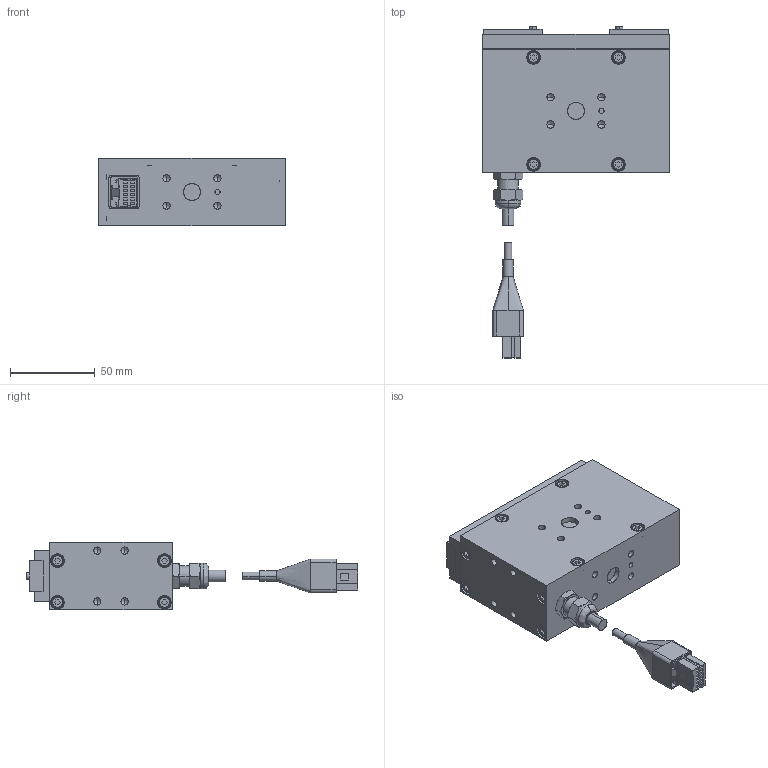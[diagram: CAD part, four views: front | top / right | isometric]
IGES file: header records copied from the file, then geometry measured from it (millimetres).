
Start section: SolidWorks IGES file using analytic representation for surfaces
Global section: file name: G:\SW2007図面\TAIYO\電動機器３Ｄ\電動グリッパ　２爪\ESG-FS-2840-P.IGS; native system: SolidWorks 2007; preprocessor: SolidWorks 2007; author: 風音庵,,1; organization: 1; date: 090212.181157; units: millimetre
Bounding box: 110 x 195.39 x 40 mm (x, y, z)
Surface area: 51056.6 mm2 (no closed solid volume)
Topology: 0 solids, 0 shells, 447 faces, 4979 edges, 4955 vertices
Faces by surface type: bspline 267, revolution 180
